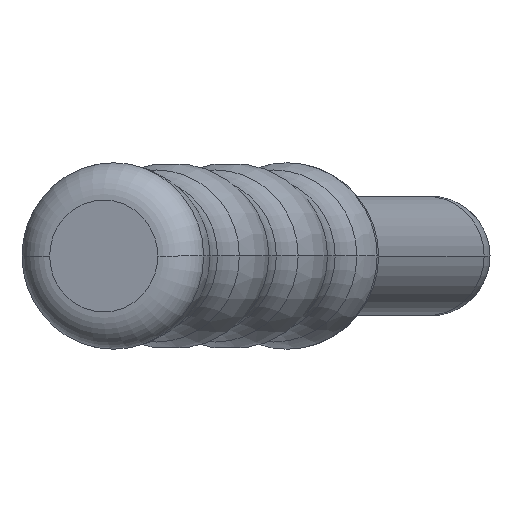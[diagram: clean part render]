
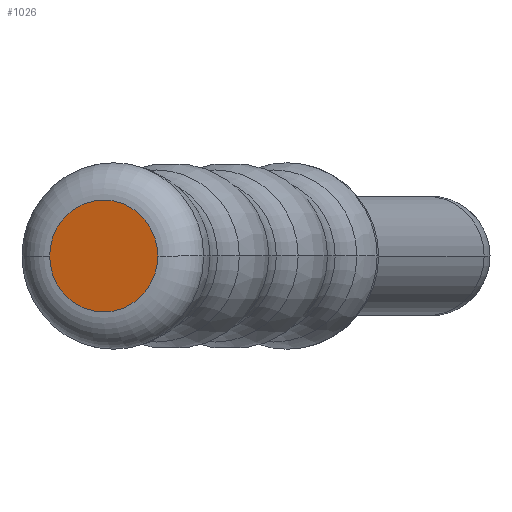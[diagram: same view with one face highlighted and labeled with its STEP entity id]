
A CAD part, left-side view. The second image highlights one B-rep face of the part: STEP entity #1026.
In plain terms, the highlighted planar face has unit normal (-0.966, 0.259, 0).
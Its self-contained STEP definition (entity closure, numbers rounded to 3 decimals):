
#70 = DIRECTION ( 'NONE',  ( 0.966, -0.259, 0. ) ) ;
#92 = CARTESIAN_POINT ( 'NONE',  ( -352.145, 36.5, 0. ) ) ;
#395 = CIRCLE ( 'NONE', #1485, 7.493 ) ;
#496 = DIRECTION ( 'NONE',  ( 0.259, 0.966, 0. ) ) ;
#585 = CARTESIAN_POINT ( 'NONE',  ( -352.145, 36.5, 0. ) ) ;
#659 = EDGE_CURVE ( 'NONE', #724, #711, #3046, .T. ) ;
#711 = VERTEX_POINT ( 'NONE', #2814 ) ;
#724 = VERTEX_POINT ( 'NONE', #92 ) ;
#732 = DIRECTION ( 'NONE',  ( 0.966, -0.259, 0. ) ) ;
#815 = PLANE ( 'NONE',  #1638 ) ;
#1026 = ADVANCED_FACE ( 'NONE', ( #2031 ), #815, .F. ) ;
#1074 = EDGE_LOOP ( 'NONE', ( #2075, #2502 ) ) ;
#1218 = EDGE_CURVE ( 'NONE', #711, #724, #395, .T. ) ;
#1485 = AXIS2_PLACEMENT_3D ( 'NONE', #2732, #732, #1718 ) ;
#1638 = AXIS2_PLACEMENT_3D ( 'NONE', #585, #70, #3050 ) ;
#1718 = DIRECTION ( 'NONE',  ( 0.259, 0.966, 0. ) ) ;
#1740 = DIRECTION ( 'NONE',  ( 0.966, -0.259, 0. ) ) ;
#2031 = FACE_OUTER_BOUND ( 'NONE', #1074, .T. ) ;
#2075 = ORIENTED_EDGE ( 'NONE', *, *, #1218, .F. ) ;
#2219 = CARTESIAN_POINT ( 'NONE',  ( -350.206, 43.738, 0. ) ) ;
#2502 = ORIENTED_EDGE ( 'NONE', *, *, #659, .F. ) ;
#2732 = CARTESIAN_POINT ( 'NONE',  ( -350.206, 43.738, 0. ) ) ;
#2814 = CARTESIAN_POINT ( 'NONE',  ( -348.267, 50.975, 0. ) ) ;
#3046 = CIRCLE ( 'NONE', #3103, 7.493 ) ;
#3050 = DIRECTION ( 'NONE',  ( 0.259, 0.966, 0. ) ) ;
#3103 = AXIS2_PLACEMENT_3D ( 'NONE', #2219, #1740, #496 ) ;
